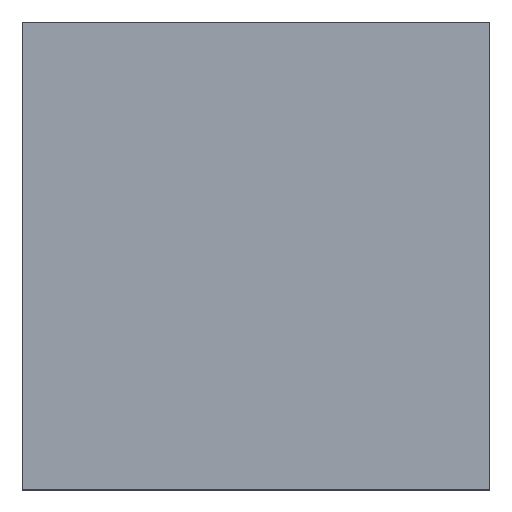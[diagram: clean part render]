
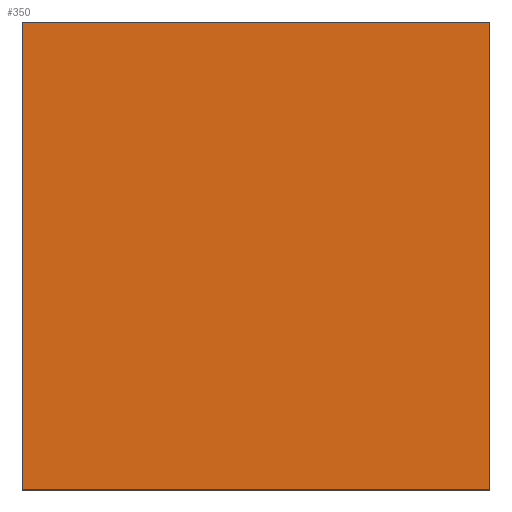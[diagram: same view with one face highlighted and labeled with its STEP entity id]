
A CAD part, top view. The second image highlights one B-rep face of the part: STEP entity #350.
In plain terms, the highlighted planar face has unit normal (0, 0, 1).
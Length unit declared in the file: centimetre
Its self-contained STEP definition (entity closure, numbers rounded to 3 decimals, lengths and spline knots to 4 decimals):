
#2 = DIRECTION ( 'NONE',  ( 0., 0., 1. ) ) ;
#13 = VECTOR ( 'NONE', #273, 100. ) ;
#70 = CARTESIAN_POINT ( 'NONE',  ( 0., 1000., 1000. ) ) ;
#222 = LINE ( 'NONE', #290, #762 ) ;
#273 = DIRECTION ( 'NONE',  ( -1., 0., 0. ) ) ;
#275 = EDGE_LOOP ( 'NONE', ( #685, #604, #584, #464 ) ) ;
#277 = EDGE_CURVE ( 'NONE', #763, #651, #720, .T. ) ;
#286 = AXIS2_PLACEMENT_3D ( 'NONE', #559, #2, #375 ) ;
#288 = EDGE_CURVE ( 'NONE', #651, #517, #222, .T. ) ;
#290 = CARTESIAN_POINT ( 'NONE',  ( 0., 0., 1000. ) ) ;
#302 = PLANE ( 'NONE',  #286 ) ;
#348 = EDGE_CURVE ( 'NONE', #517, #741, #413, .T. ) ;
#350 = ADVANCED_FACE ( 'NONE', ( #672 ), #302, .T. ) ;
#352 = CARTESIAN_POINT ( 'NONE',  ( 1000., 1000., 1000. ) ) ;
#375 = DIRECTION ( 'NONE',  ( 1., 0., 0. ) ) ;
#387 = VECTOR ( 'NONE', #540, 100. ) ;
#413 = LINE ( 'NONE', #352, #578 ) ;
#446 = CARTESIAN_POINT ( 'NONE',  ( 0., 0., 1000. ) ) ;
#464 = ORIENTED_EDGE ( 'NONE', *, *, #596, .T. ) ;
#507 = CARTESIAN_POINT ( 'NONE',  ( 1000., 0., 1000. ) ) ;
#517 = VERTEX_POINT ( 'NONE', #507 ) ;
#540 = DIRECTION ( 'NONE',  ( 0., -1., 0. ) ) ;
#543 = CARTESIAN_POINT ( 'NONE',  ( 0., 1000., 1000. ) ) ;
#559 = CARTESIAN_POINT ( 'NONE',  ( 0., 0., 1000. ) ) ;
#573 = CARTESIAN_POINT ( 'NONE',  ( 0., 1000., 1000. ) ) ;
#578 = VECTOR ( 'NONE', #676, 100. ) ;
#584 = ORIENTED_EDGE ( 'NONE', *, *, #348, .T. ) ;
#587 = DIRECTION ( 'NONE',  ( 1., 0., 0. ) ) ;
#596 = EDGE_CURVE ( 'NONE', #741, #763, #623, .T. ) ;
#604 = ORIENTED_EDGE ( 'NONE', *, *, #288, .T. ) ;
#623 = LINE ( 'NONE', #70, #13 ) ;
#651 = VERTEX_POINT ( 'NONE', #446 ) ;
#672 = FACE_OUTER_BOUND ( 'NONE', #275, .T. ) ;
#676 = DIRECTION ( 'NONE',  ( 0., 1., 0. ) ) ;
#685 = ORIENTED_EDGE ( 'NONE', *, *, #277, .T. ) ;
#686 = CARTESIAN_POINT ( 'NONE',  ( 1000., 1000., 1000. ) ) ;
#720 = LINE ( 'NONE', #543, #387 ) ;
#741 = VERTEX_POINT ( 'NONE', #686 ) ;
#762 = VECTOR ( 'NONE', #587, 100. ) ;
#763 = VERTEX_POINT ( 'NONE', #573 ) ;
